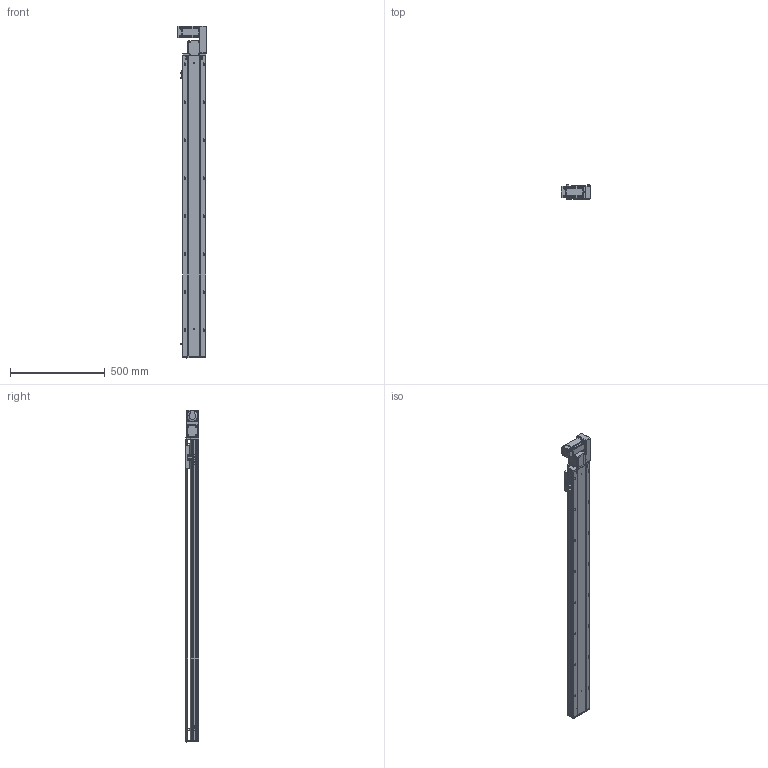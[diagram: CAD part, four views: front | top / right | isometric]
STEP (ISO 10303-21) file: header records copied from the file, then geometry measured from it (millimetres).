
FILE_DESCRIPTION (( 'STEP AP203' ), '1' );
FILE_NAME ('RY120-T-300-RK.SLDASM_1350.step', '2021-03-01T03:54:12', ( '盈信电脑' ), ( '东莞市道滘镇水果街19号' ), 'SwSTEP 2.0', 'SolidWorks 2012', '' );
FILE_SCHEMA (( 'CONFIG_CONTROL_DESIGN' ));
Length unit declared in the file: millimetre
Products named in the file (17): RY120外置感应片(140共用）; 覜茼ん672; RY120綴裔啣; RY120-T-300-RK倰第奻裔啣_1350; RY120-T-300-RK倰第菁釱_1350; RY120肮祭湍臏賑輸; RY120-T-300-RK.SLDASM_1350; RY120-T主同步轮轴承压盖; RY120-T萇儂欶; RY120-T肮祭湍揤踡輸2; 滅袉蝶18-10; RY120-T翋肮祭盓傅釱; RY120-T肮祭湍揤踡輸1; RY120-T萇儂假蚾啣; RY120-T蹟翐M4; 15; RY120-T翋肮祭謫裔啣
Assembly tree (22 placements, depth 2):
  RY120-T-300-RK.SLDASM_1350
    RY120-T-300-RK倰第菁釱_1350
    RY120-T-300-RK倰第奻裔啣_1350
    RY120肮祭湍臏賑輸
    RY120綴裔啣
    覜茼ん672  x3
    RY120外置感应片(140共用）
    RY120-T肮祭湍揤踡輸1
    RY120-T肮祭湍揤踡輸2
    RY120-T翋肮祭盓傅釱
    滅袉蝶18-10  x2
    RY120-T翋肮祭謫裔啣
    15
    RY120-T萇儂假蚾啣
    RY120-T蹟翐M4  x4
    RY120-T萇儂欶
    RY120-T主同步轮轴承压盖
Bounding box: 155.5 x 73 x 1747.5 mm (x, y, z)
Volume: 4384286.2 mm3; surface area: 1654043.8 mm2
Topology: 23 solids, 23 shells, 2902 faces, 7912 edges, 5058 vertices
Faces by surface type: plane 1422, cylinder 1116, cone 275, bspline 89
Entity records: 92403 total; most frequent: CARTESIAN_POINT 23588, ORIENTED_EDGE 14200, DIRECTION 13454, EDGE_CURVE 7100, VERTEX_POINT 4645, AXIS2_PLACEMENT_3D 4527, VECTOR 4400, LINE 4400
